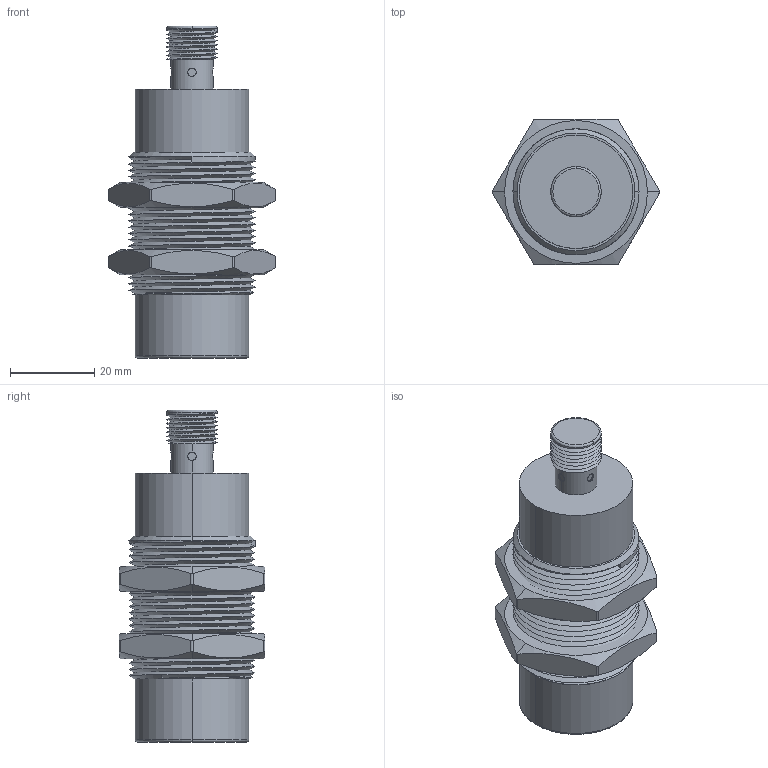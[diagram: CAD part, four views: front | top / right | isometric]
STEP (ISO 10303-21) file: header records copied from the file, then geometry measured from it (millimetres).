
FILE_DESCRIPTION((''),'2;1');
FILE_NAME('M30_FQP_DS1279_ASM','2019-07-17T',('Administrator'),(''),'PRO/ENGINEER BY PARAMETRIC TECHNOLOGY CORPORATION, 2012130','PRO/ENGINEER BY PARAMETRIC TECHNOLOGY CORPORATION, 2012130','');
FILE_SCHEMA(('AUTOMOTIVE_DESIGN { 1 0 10303 214 1 1 1 1 }'));
Length unit declared in the file: millimetre
Products named in the file (3): M30_FQP_DS1279; M30_LM; M30_FQP_DS1279_ASM
Assembly tree (3 placements, depth 2):
  M30_FQP_DS1279_ASM
    M30_FQP_DS1279
    M30_LM  x2
Bounding box: 39.85 x 34.64 x 79 mm (x, y, z)
Volume: 45647.2 mm3; surface area: 15170.8 mm2
Topology: 3 solids, 3 shells, 115 faces, 338 edges, 235 vertices
Faces by surface type: cylinder 44, plane 31, bspline 24, cone 12, torus 4
Entity records: 10675 total; most frequent: CARTESIAN_POINT 7879, ORIENTED_EDGE 510, DIRECTION 303, EDGE_CURVE 255, VERTEX_POINT 180, PRESENTATION_STYLE_ASSIGNMENT 176, STYLED_ITEM 173, CURVE_STYLE 172
